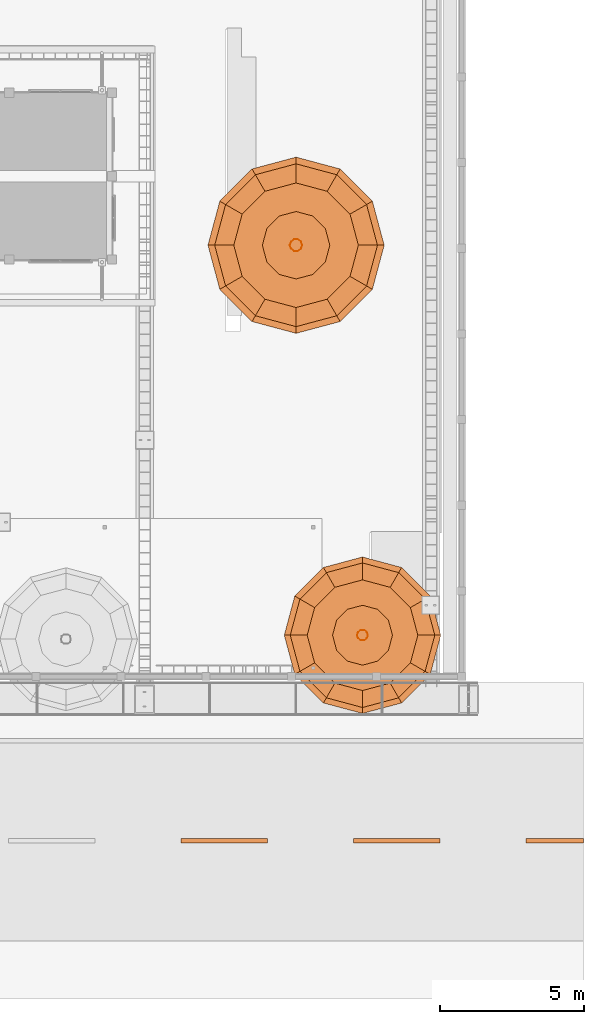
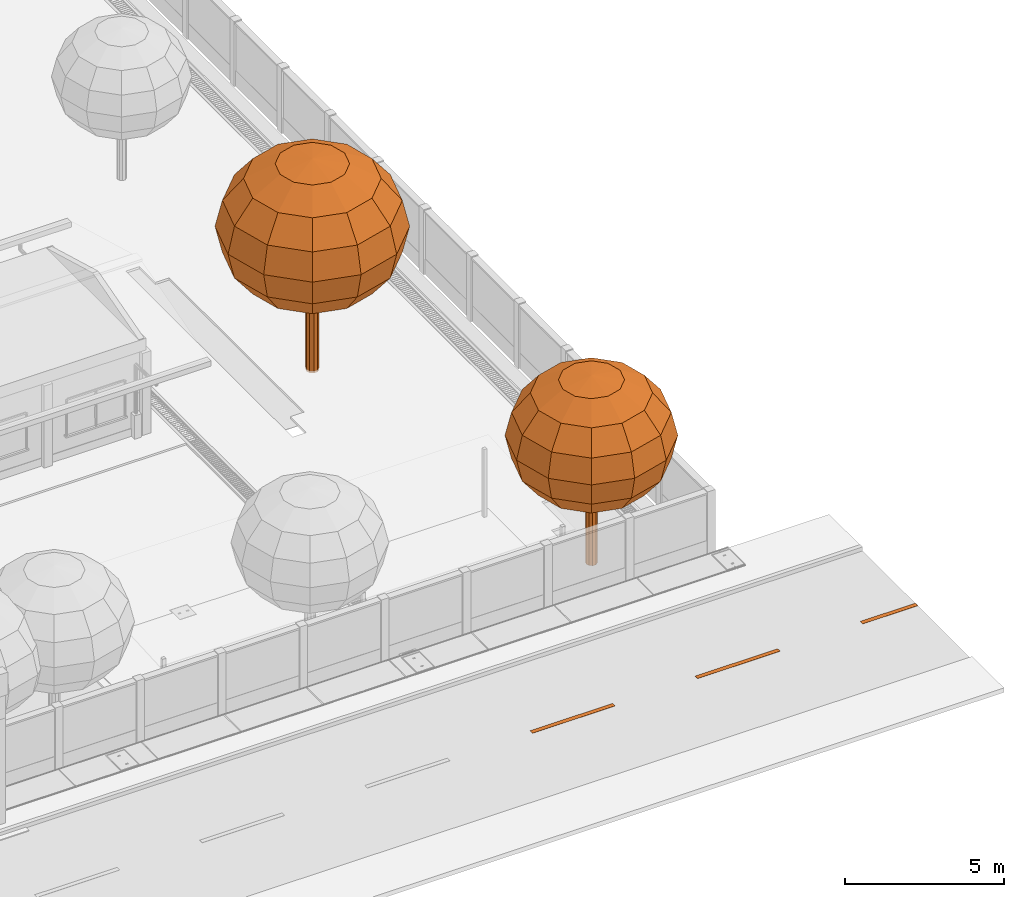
# One storey, part 154 of 166: 7 proxies.
"""IFC2X3 building model written with IfcOpenShell, lengths in metres."""

from ifc_helpers import new_model, si_unit, origin, origin_with_axes, place, context, subcontext, project, spatial, faceted_brep, element, save


model = new_model("IFC2X3")

# Units and contexts
model_context = context("Model", 3, precision=1e-05, world=origin_with_axes())
body_context = subcontext(model_context, "Body", "Model", "MODEL_VIEW")
ifc_project = project(units=[si_unit("LENGTHUNIT", "METRE"), si_unit("AREAUNIT", "SQUARE_METRE"), si_unit("VOLUMEUNIT", "CUBIC_METRE"), si_unit("PLANEANGLEUNIT", "RADIAN")], contexts=[model_context])

# Site, building, storey
site_placement = place(None, origin_with_axes())
site = spatial("IfcSite", under=ifc_project, at=site_placement, Name="Predio Los Mangos - Morales, San Martín", CompositionType="ELEMENT")
building_placement = place(site_placement, origin())
building = spatial("IfcBuilding", under=site, at=building_placement, Name="Hogar de Refugio Temporal", CompositionType="ELEMENT")
storey_placement = place(building_placement, origin())
storey = spatial("IfcBuildingStorey", under=building, at=storey_placement, Name="NIVEL 1 (NPT +0.00)", CompositionType="ELEMENT", Elevation=0.0)

# Proxies
proxy_1_placement = place(storey_placement, origin())
element("IfcBuildingElementProxy", 1, at=proxy_1_placement, inside=storey, Name="linea_carril", ObjectType="Losa deportiva y vía", context=body_context, shape_type="Brep", body=[
    faceted_brep([(62.0, 12.22, 0.02), (62.0, 12.38, 0.02), (65.0, 12.38, 0.02), (65.0, 12.22, 0.02), (62.0, 12.22, 0.025), (65.0, 12.22, 0.025), (65.0, 12.38, 0.025), (62.0, 12.38, 0.025)], [[[0, 1, 2, 3]], [[4, 5, 6, 7]], [[0, 3, 5, 4]], [[3, 2, 6, 5]], [[2, 1, 7, 6]], [[1, 0, 4, 7]]]),
])
proxy_2_placement = place(storey_placement, origin())
element("IfcBuildingElementProxy", 2, at=proxy_2_placement, inside=storey, Name="linea_carril", ObjectType="Losa deportiva y vía", context=body_context, shape_type="Brep", body=[
    faceted_brep([(68.0, 12.22, 0.02), (68.0, 12.38, 0.02), (71.0, 12.38, 0.02), (71.0, 12.22, 0.02), (68.0, 12.22, 0.025), (71.0, 12.22, 0.025), (71.0, 12.38, 0.025), (68.0, 12.38, 0.025)], [[[0, 1, 2, 3]], [[4, 5, 6, 7]], [[0, 3, 5, 4]], [[3, 2, 6, 5]], [[2, 1, 7, 6]], [[1, 0, 4, 7]]]),
])
proxy_3_placement = place(storey_placement, origin())
element("IfcBuildingElementProxy", 3, at=proxy_3_placement, inside=storey, Name="linea_carril", ObjectType="Losa deportiva y vía", context=body_context, shape_type="Brep", body=[
    faceted_brep([(74.0, 12.22, 0.02), (74.0, 12.38, 0.02), (76.0, 12.38, 0.02), (76.0, 12.22, 0.02), (74.0, 12.22, 0.025), (76.0, 12.22, 0.025), (76.0, 12.38, 0.025), (74.0, 12.38, 0.025)], [[[0, 1, 2, 3]], [[4, 5, 6, 7]], [[0, 3, 5, 4]], [[3, 2, 6, 5]], [[2, 1, 7, 6]], [[1, 0, 4, 7]]]),
])
proxy_4_placement = place(storey_placement, origin())
element("IfcBuildingElementProxy", 4, at=proxy_4_placement, inside=storey, Name="arbol_tronco", ObjectType="Árbol", context=body_context, shape_type="Brep", body=[
    faceted_brep([(68.4992, 19.44, 0.0), (68.4631, 19.5512, 0.0), (68.4631, 19.5512, 2.8386), (68.3685, 19.62, 0.0), (68.3685, 19.62, 2.8386), (68.2515, 19.62, 0.0), (68.2515, 19.62, 2.8386), (68.1569, 19.5512, 0.0), (68.1569, 19.5512, 2.8386), (68.1208, 19.44, 0.0), (68.1208, 19.44, 2.8386), (68.1569, 19.3288, 0.0), (68.1569, 19.3288, 2.8386), (68.2515, 19.26, 0.0), (68.2515, 19.26, 2.8386), (68.3685, 19.26, 0.0), (68.3685, 19.26, 2.8386), (68.4631, 19.3288, 0.0), (68.4631, 19.3288, 2.8386), (68.4992, 19.44, 2.8386)], [[[0, 1, 2]], [[1, 3, 4]], [[3, 5, 6]], [[5, 7, 8]], [[7, 9, 10]], [[9, 11, 12]], [[11, 13, 14]], [[13, 15, 16]], [[15, 17, 18]], [[17, 0, 19]], [[0, 2, 19]], [[1, 4, 2]], [[3, 6, 4]], [[5, 8, 6]], [[7, 10, 8]], [[9, 12, 10]], [[11, 14, 12]], [[13, 16, 14]], [[15, 18, 16]], [[17, 19, 18]]]),
])
proxy_5_placement = place(storey_placement, origin())
element("IfcBuildingElementProxy", 5, at=proxy_5_placement, inside=storey, Name="arbol_copa", ObjectType="Árbol", context=body_context, shape_type="Brep", body=[
    faceted_brep([(68.31, 19.44, 7.191), (68.31, 19.44, 7.191), (69.2115, 19.9605, 7.015), (69.351, 19.44, 7.015), (68.31, 19.44, 7.191), (68.8305, 20.3415, 7.015), (68.31, 19.44, 7.191), (68.31, 20.481, 7.015), (68.31, 19.44, 7.191), (67.7895, 20.3415, 7.015), (68.31, 19.44, 7.191), (67.4085, 19.9605, 7.015), (68.31, 19.44, 7.191), (67.269, 19.44, 7.015), (68.31, 19.44, 7.191), (67.4085, 18.9195, 7.015), (68.31, 19.44, 7.191), (67.7895, 18.5385, 7.015), (68.31, 19.44, 7.191), (68.31, 18.399, 7.015), (68.31, 19.44, 7.191), (68.8305, 18.5385, 7.015), (68.31, 19.44, 7.191), (69.2115, 18.9195, 7.015), (69.9758, 20.4018, 6.5138), (70.2335, 19.44, 6.5138), (69.2718, 21.1058, 6.5138), (68.31, 21.3635, 6.5138), (67.3482, 21.1058, 6.5138), (66.6442, 20.4018, 6.5138), (66.3865, 19.44, 6.5138), (66.6442, 18.4782, 6.5138), (67.3482, 17.7742, 6.5138), (68.31, 17.5165, 6.5138), (69.2718, 17.7742, 6.5138), (69.9758, 18.4782, 6.5138), (70.4865, 20.6966, 5.7636), (70.8232, 19.44, 5.7636), (69.5666, 21.6165, 5.7636), (68.31, 21.9532, 5.7636), (67.0534, 21.6165, 5.7636), (66.1335, 20.6966, 5.7636), (65.7968, 19.44, 5.7636), (66.1335, 18.1834, 5.7636), (67.0534, 17.2635, 5.7636), (68.31, 16.9268, 5.7636), (69.5666, 17.2635, 5.7636), (70.4865, 18.1834, 5.7636), (70.6658, 20.8001, 4.8788), (71.0303, 19.44, 4.8788), (69.6701, 21.7958, 4.8788), (68.31, 22.1603, 4.8788), (66.9499, 21.7958, 4.8788), (65.9542, 20.8001, 4.8788), (65.5897, 19.44, 4.8788), (65.9542, 18.0799, 4.8788), (66.9499, 17.0842, 4.8788), (68.31, 16.7197, 4.8788), (69.6701, 17.0842, 4.8788), (70.6658, 18.0799, 4.8788), (70.4865, 20.6966, 3.9939), (70.8232, 19.44, 3.9939), (69.5666, 21.6165, 3.9939), (68.31, 21.9532, 3.9939), (67.0534, 21.6165, 3.9939), (66.1335, 20.6966, 3.9939), (65.7968, 19.44, 3.9939), (66.1335, 18.1834, 3.9939), (67.0534, 17.2635, 3.9939), (68.31, 16.9268, 3.9939), (69.5666, 17.2635, 3.9939), (70.4865, 18.1834, 3.9939), (69.9758, 20.4018, 3.2438), (70.2335, 19.44, 3.2438), (69.2718, 21.1058, 3.2438), (68.31, 21.3635, 3.2438), (67.3482, 21.1058, 3.2438), (66.6442, 20.4018, 3.2438), (66.3865, 19.44, 3.2438), (66.6442, 18.4782, 3.2438), (67.3482, 17.7742, 3.2438), (68.31, 17.5165, 3.2438), (69.2718, 17.7742, 3.2438), (69.9758, 18.4782, 3.2438), (69.2115, 19.9605, 2.7425), (69.351, 19.44, 2.7425), (68.8305, 20.3415, 2.7425), (68.31, 20.481, 2.7425), (67.7895, 20.3415, 2.7425), (67.4085, 19.9605, 2.7425), (67.269, 19.44, 2.7425), (67.4085, 18.9195, 2.7425), (67.7895, 18.5385, 2.7425), (68.31, 18.399, 2.7425), (68.8305, 18.5385, 2.7425), (69.2115, 18.9195, 2.7425), (68.31, 19.44, 2.5665), (68.31, 19.44, 2.5665), (68.31, 19.44, 2.5665), (68.31, 19.44, 2.5665), (68.31, 19.44, 2.5665), (68.31, 19.44, 2.5665), (68.31, 19.44, 2.5665), (68.31, 19.44, 2.5665), (68.31, 19.44, 2.5665), (68.31, 19.44, 2.5665), (68.31, 19.44, 2.5665), (68.31, 19.44, 2.5665)], [[[0, 1, 2]], [[0, 2, 3]], [[1, 4, 5]], [[1, 5, 2]], [[4, 6, 7]], [[4, 7, 5]], [[6, 8, 9]], [[6, 9, 7]], [[8, 10, 11]], [[8, 11, 9]], [[10, 12, 13]], [[10, 13, 11]], [[12, 14, 15]], [[12, 15, 13]], [[14, 16, 17]], [[14, 17, 15]], [[16, 18, 19]], [[16, 19, 17]], [[18, 20, 21]], [[18, 21, 19]], [[20, 22, 23]], [[20, 23, 21]], [[22, 0, 3]], [[22, 3, 23]], [[3, 2, 24]], [[3, 24, 25]], [[2, 5, 26]], [[2, 26, 24]], [[5, 7, 27]], [[5, 27, 26]], [[7, 9, 28]], [[7, 28, 27]], [[9, 11, 29]], [[9, 29, 28]], [[11, 13, 30]], [[11, 30, 29]], [[13, 15, 31]], [[13, 31, 30]], [[15, 17, 32]], [[15, 32, 31]], [[17, 19, 33]], [[17, 33, 32]], [[19, 21, 34]], [[19, 34, 33]], [[21, 23, 35]], [[21, 35, 34]], [[23, 3, 25]], [[23, 25, 35]], [[25, 24, 36]], [[25, 36, 37]], [[24, 26, 38]], [[24, 38, 36]], [[26, 27, 39]], [[26, 39, 38]], [[27, 28, 40]], [[27, 40, 39]], [[28, 29, 41]], [[28, 41, 40]], [[29, 30, 42]], [[29, 42, 41]], [[30, 31, 43]], [[30, 43, 42]], [[31, 32, 44]], [[31, 44, 43]], [[32, 33, 45]], [[32, 45, 44]], [[33, 34, 46]], [[33, 46, 45]], [[34, 35, 47]], [[34, 47, 46]], [[35, 25, 37]], [[35, 37, 47]], [[37, 36, 48]], [[37, 48, 49]], [[36, 38, 50]], [[36, 50, 48]], [[38, 39, 51]], [[38, 51, 50]], [[39, 40, 52]], [[39, 52, 51]], [[40, 41, 53]], [[40, 53, 52]], [[41, 42, 54]], [[41, 54, 53]], [[42, 43, 55]], [[42, 55, 54]], [[43, 44, 56]], [[43, 56, 55]], [[44, 45, 57]], [[44, 57, 56]], [[45, 46, 58]], [[45, 58, 57]], [[46, 47, 59]], [[46, 59, 58]], [[47, 37, 49]], [[47, 49, 59]], [[49, 48, 60]], [[49, 60, 61]], [[48, 50, 62]], [[48, 62, 60]], [[50, 51, 63]], [[50, 63, 62]], [[51, 52, 64]], [[51, 64, 63]], [[52, 53, 65]], [[52, 65, 64]], [[53, 54, 66]], [[53, 66, 65]], [[54, 55, 67]], [[54, 67, 66]], [[55, 56, 68]], [[55, 68, 67]], [[56, 57, 69]], [[56, 69, 68]], [[57, 58, 70]], [[57, 70, 69]], [[58, 59, 71]], [[58, 71, 70]], [[59, 49, 61]], [[59, 61, 71]], [[61, 60, 72]], [[61, 72, 73]], [[60, 62, 74]], [[60, 74, 72]], [[62, 63, 75]], [[62, 75, 74]], [[63, 64, 76]], [[63, 76, 75]], [[64, 65, 77]], [[64, 77, 76]], [[65, 66, 78]], [[65, 78, 77]], [[66, 67, 79]], [[66, 79, 78]], [[67, 68, 80]], [[67, 80, 79]], [[68, 69, 81]], [[68, 81, 80]], [[69, 70, 82]], [[69, 82, 81]], [[70, 71, 83]], [[70, 83, 82]], [[71, 61, 73]], [[71, 73, 83]], [[73, 72, 84]], [[73, 84, 85]], [[72, 74, 86]], [[72, 86, 84]], [[74, 75, 87]], [[74, 87, 86]], [[75, 76, 88]], [[75, 88, 87]], [[76, 77, 89]], [[76, 89, 88]], [[77, 78, 90]], [[77, 90, 89]], [[78, 79, 91]], [[78, 91, 90]], [[79, 80, 92]], [[79, 92, 91]], [[80, 81, 93]], [[80, 93, 92]], [[81, 82, 94]], [[81, 94, 93]], [[82, 83, 95]], [[82, 95, 94]], [[83, 73, 85]], [[83, 85, 95]], [[85, 84, 96]], [[85, 96, 97]], [[84, 86, 98]], [[84, 98, 96]], [[86, 87, 99]], [[86, 99, 98]], [[87, 88, 100]], [[87, 100, 99]], [[88, 89, 101]], [[88, 101, 100]], [[89, 90, 102]], [[89, 102, 101]], [[90, 91, 103]], [[90, 103, 102]], [[91, 92, 104]], [[91, 104, 103]], [[92, 93, 105]], [[92, 105, 104]], [[93, 94, 106]], [[93, 106, 105]], [[94, 95, 107]], [[94, 107, 106]], [[95, 85, 97]], [[95, 97, 107]]]),
])
proxy_6_placement = place(storey_placement, origin())
element("IfcBuildingElementProxy", 6, at=proxy_6_placement, inside=storey, Name="arbol_tronco", ObjectType="Árbol", context=body_context, shape_type="Brep", body=[
    faceted_brep([(66.2131, 33.0, 0.0), (66.1724, 33.1253, 0.0), (66.1724, 33.1253, 3.1967), (66.0659, 33.2027, 0.0), (66.0659, 33.2027, 3.1967), (65.9341, 33.2027, 0.0), (65.9341, 33.2027, 3.1967), (65.8276, 33.1253, 0.0), (65.8276, 33.1253, 3.1967), (65.7869, 33.0, 0.0), (65.7869, 33.0, 3.1967), (65.8276, 32.8747, 0.0), (65.8276, 32.8747, 3.1967), (65.9341, 32.7973, 0.0), (65.9341, 32.7973, 3.1967), (66.0659, 32.7973, 0.0), (66.0659, 32.7973, 3.1967), (66.1724, 32.8747, 0.0), (66.1724, 32.8747, 3.1967), (66.2131, 33.0, 3.1967)], [[[0, 1, 2]], [[1, 3, 4]], [[3, 5, 6]], [[5, 7, 8]], [[7, 9, 10]], [[9, 11, 12]], [[11, 13, 14]], [[13, 15, 16]], [[15, 17, 18]], [[17, 0, 19]], [[0, 2, 19]], [[1, 4, 2]], [[3, 6, 4]], [[5, 8, 6]], [[7, 10, 8]], [[9, 12, 10]], [[11, 14, 12]], [[13, 16, 14]], [[15, 18, 16]], [[17, 19, 18]]]),
])
proxy_7_placement = place(storey_placement, origin())
element("IfcBuildingElementProxy", 7, at=proxy_7_placement, inside=storey, Name="arbol_copa", ObjectType="Árbol", context=body_context, shape_type="Brep", body=[
    faceted_brep([(66.0, 33.0, 8.0982), (66.0, 33.0, 8.0982), (67.0153, 33.5862, 7.9), (67.1723, 33.0, 7.9), (66.0, 33.0, 8.0982), (66.5862, 34.0153, 7.9), (66.0, 33.0, 8.0982), (66.0, 34.1723, 7.9), (66.0, 33.0, 8.0982), (65.4138, 34.0153, 7.9), (66.0, 33.0, 8.0982), (64.9847, 33.5862, 7.9), (66.0, 33.0, 8.0982), (64.8277, 33.0, 7.9), (66.0, 33.0, 8.0982), (64.9847, 32.4138, 7.9), (66.0, 33.0, 8.0982), (65.4138, 31.9847, 7.9), (66.0, 33.0, 8.0982), (66.0, 31.8277, 7.9), (66.0, 33.0, 8.0982), (66.5862, 31.9847, 7.9), (66.0, 33.0, 8.0982), (67.0153, 32.4138, 7.9), (67.876, 34.0831, 7.3356), (68.1662, 33.0, 7.3356), (67.0831, 34.876, 7.3356), (66.0, 35.1662, 7.3356), (64.9169, 34.876, 7.3356), (64.124, 34.0831, 7.3356), (63.8338, 33.0, 7.3356), (64.124, 31.9169, 7.3356), (64.9169, 31.124, 7.3356), (66.0, 30.8338, 7.3356), (67.0831, 31.124, 7.3356), (67.876, 31.9169, 7.3356), (68.4511, 34.4151, 6.4908), (68.8303, 33.0, 6.4908), (67.4151, 35.4511, 6.4908), (66.0, 35.8303, 6.4908), (64.5849, 35.4511, 6.4908), (63.5489, 34.4151, 6.4908), (63.1697, 33.0, 6.4908), (63.5489, 31.5849, 6.4908), (64.5849, 30.5489, 6.4908), (66.0, 30.1697, 6.4908), (67.4151, 30.5489, 6.4908), (68.4511, 31.5849, 6.4908), (68.653, 34.5317, 5.4943), (69.0635, 33.0, 5.4943), (67.5317, 35.653, 5.4943), (66.0, 36.0635, 5.4943), (64.4683, 35.653, 5.4943), (63.347, 34.5317, 5.4943), (62.9365, 33.0, 5.4943), (63.347, 31.4683, 5.4943), (64.4683, 30.347, 5.4943), (66.0, 29.9365, 5.4943), (67.5317, 30.347, 5.4943), (68.653, 31.4683, 5.4943), (68.4511, 34.4151, 4.4978), (68.8303, 33.0, 4.4978), (67.4151, 35.4511, 4.4978), (66.0, 35.8303, 4.4978), (64.5849, 35.4511, 4.4978), (63.5489, 34.4151, 4.4978), (63.1697, 33.0, 4.4978), (63.5489, 31.5849, 4.4978), (64.5849, 30.5489, 4.4978), (66.0, 30.1697, 4.4978), (67.4151, 30.5489, 4.4978), (68.4511, 31.5849, 4.4978), (67.876, 34.0831, 3.653), (68.1662, 33.0, 3.653), (67.0831, 34.876, 3.653), (66.0, 35.1662, 3.653), (64.9169, 34.876, 3.653), (64.124, 34.0831, 3.653), (63.8338, 33.0, 3.653), (64.124, 31.9169, 3.653), (64.9169, 31.124, 3.653), (66.0, 30.8338, 3.653), (67.0831, 31.124, 3.653), (67.876, 31.9169, 3.653), (67.0153, 33.5862, 3.0885), (67.1723, 33.0, 3.0885), (66.5862, 34.0153, 3.0885), (66.0, 34.1723, 3.0885), (65.4138, 34.0153, 3.0885), (64.9847, 33.5862, 3.0885), (64.8277, 33.0, 3.0885), (64.9847, 32.4138, 3.0885), (65.4138, 31.9847, 3.0885), (66.0, 31.8277, 3.0885), (66.5862, 31.9847, 3.0885), (67.0153, 32.4138, 3.0885), (66.0, 33.0, 2.8903), (66.0, 33.0, 2.8903), (66.0, 33.0, 2.8903), (66.0, 33.0, 2.8903), (66.0, 33.0, 2.8903), (66.0, 33.0, 2.8903), (66.0, 33.0, 2.8903), (66.0, 33.0, 2.8903), (66.0, 33.0, 2.8903), (66.0, 33.0, 2.8903), (66.0, 33.0, 2.8903), (66.0, 33.0, 2.8903)], [[[0, 1, 2]], [[0, 2, 3]], [[1, 4, 5]], [[1, 5, 2]], [[4, 6, 7]], [[4, 7, 5]], [[6, 8, 9]], [[6, 9, 7]], [[8, 10, 11]], [[8, 11, 9]], [[10, 12, 13]], [[10, 13, 11]], [[12, 14, 15]], [[12, 15, 13]], [[14, 16, 17]], [[14, 17, 15]], [[16, 18, 19]], [[16, 19, 17]], [[18, 20, 21]], [[18, 21, 19]], [[20, 22, 23]], [[20, 23, 21]], [[22, 0, 3]], [[22, 3, 23]], [[3, 2, 24]], [[3, 24, 25]], [[2, 5, 26]], [[2, 26, 24]], [[5, 7, 27]], [[5, 27, 26]], [[7, 9, 28]], [[7, 28, 27]], [[9, 11, 29]], [[9, 29, 28]], [[11, 13, 30]], [[11, 30, 29]], [[13, 15, 31]], [[13, 31, 30]], [[15, 17, 32]], [[15, 32, 31]], [[17, 19, 33]], [[17, 33, 32]], [[19, 21, 34]], [[19, 34, 33]], [[21, 23, 35]], [[21, 35, 34]], [[23, 3, 25]], [[23, 25, 35]], [[25, 24, 36]], [[25, 36, 37]], [[24, 26, 38]], [[24, 38, 36]], [[26, 27, 39]], [[26, 39, 38]], [[27, 28, 40]], [[27, 40, 39]], [[28, 29, 41]], [[28, 41, 40]], [[29, 30, 42]], [[29, 42, 41]], [[30, 31, 43]], [[30, 43, 42]], [[31, 32, 44]], [[31, 44, 43]], [[32, 33, 45]], [[32, 45, 44]], [[33, 34, 46]], [[33, 46, 45]], [[34, 35, 47]], [[34, 47, 46]], [[35, 25, 37]], [[35, 37, 47]], [[37, 36, 48]], [[37, 48, 49]], [[36, 38, 50]], [[36, 50, 48]], [[38, 39, 51]], [[38, 51, 50]], [[39, 40, 52]], [[39, 52, 51]], [[40, 41, 53]], [[40, 53, 52]], [[41, 42, 54]], [[41, 54, 53]], [[42, 43, 55]], [[42, 55, 54]], [[43, 44, 56]], [[43, 56, 55]], [[44, 45, 57]], [[44, 57, 56]], [[45, 46, 58]], [[45, 58, 57]], [[46, 47, 59]], [[46, 59, 58]], [[47, 37, 49]], [[47, 49, 59]], [[49, 48, 60]], [[49, 60, 61]], [[48, 50, 62]], [[48, 62, 60]], [[50, 51, 63]], [[50, 63, 62]], [[51, 52, 64]], [[51, 64, 63]], [[52, 53, 65]], [[52, 65, 64]], [[53, 54, 66]], [[53, 66, 65]], [[54, 55, 67]], [[54, 67, 66]], [[55, 56, 68]], [[55, 68, 67]], [[56, 57, 69]], [[56, 69, 68]], [[57, 58, 70]], [[57, 70, 69]], [[58, 59, 71]], [[58, 71, 70]], [[59, 49, 61]], [[59, 61, 71]], [[61, 60, 72]], [[61, 72, 73]], [[60, 62, 74]], [[60, 74, 72]], [[62, 63, 75]], [[62, 75, 74]], [[63, 64, 76]], [[63, 76, 75]], [[64, 65, 77]], [[64, 77, 76]], [[65, 66, 78]], [[65, 78, 77]], [[66, 67, 79]], [[66, 79, 78]], [[67, 68, 80]], [[67, 80, 79]], [[68, 69, 81]], [[68, 81, 80]], [[69, 70, 82]], [[69, 82, 81]], [[70, 71, 83]], [[70, 83, 82]], [[71, 61, 73]], [[71, 73, 83]], [[73, 72, 84]], [[73, 84, 85]], [[72, 74, 86]], [[72, 86, 84]], [[74, 75, 87]], [[74, 87, 86]], [[75, 76, 88]], [[75, 88, 87]], [[76, 77, 89]], [[76, 89, 88]], [[77, 78, 90]], [[77, 90, 89]], [[78, 79, 91]], [[78, 91, 90]], [[79, 80, 92]], [[79, 92, 91]], [[80, 81, 93]], [[80, 93, 92]], [[81, 82, 94]], [[81, 94, 93]], [[82, 83, 95]], [[82, 95, 94]], [[83, 73, 85]], [[83, 85, 95]], [[85, 84, 96]], [[85, 96, 97]], [[84, 86, 98]], [[84, 98, 96]], [[86, 87, 99]], [[86, 99, 98]], [[87, 88, 100]], [[87, 100, 99]], [[88, 89, 101]], [[88, 101, 100]], [[89, 90, 102]], [[89, 102, 101]], [[90, 91, 103]], [[90, 103, 102]], [[91, 92, 104]], [[91, 104, 103]], [[92, 93, 105]], [[92, 105, 104]], [[93, 94, 106]], [[93, 106, 105]], [[94, 95, 107]], [[94, 107, 106]], [[95, 85, 97]], [[95, 97, 107]]]),
])

save(model, "model.ifc")
